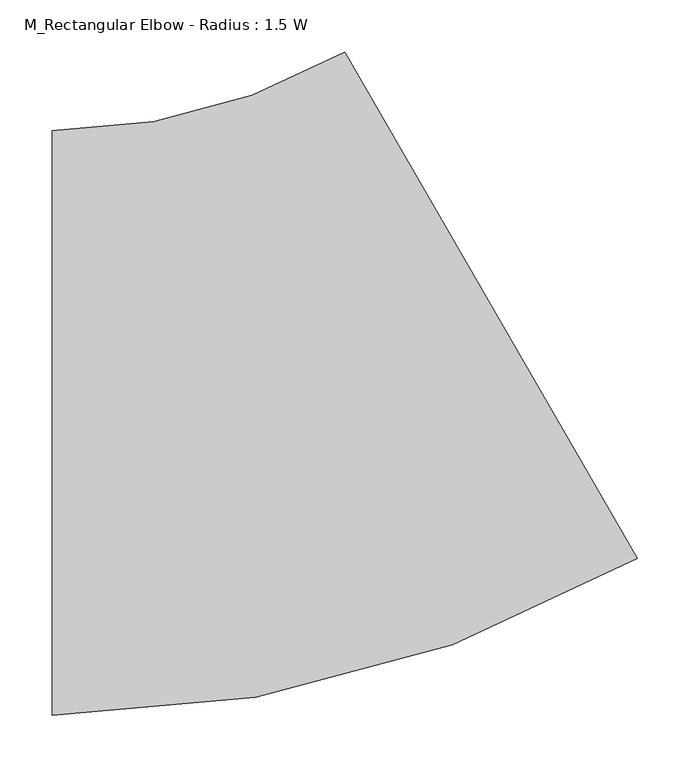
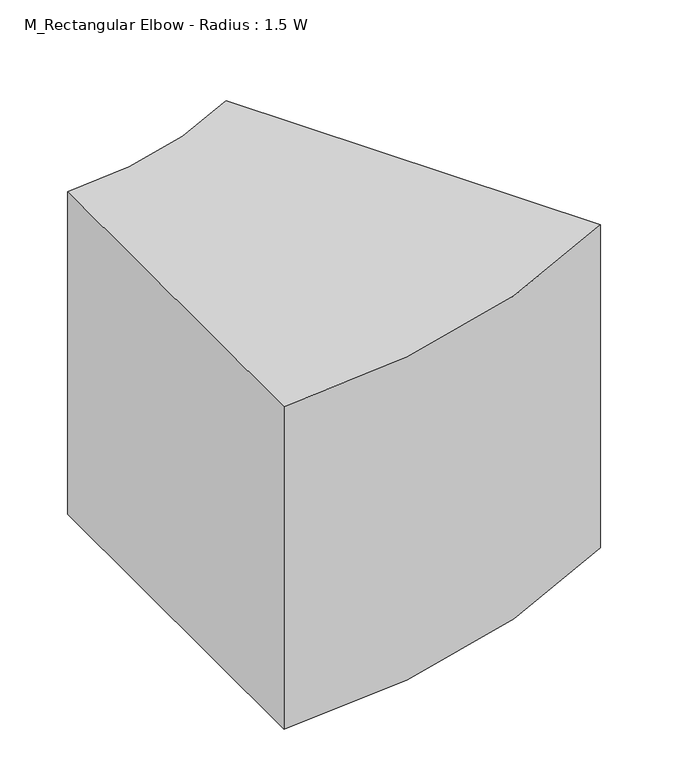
"""IFC4 building model written with IfcOpenShell, lengths in millimetres: duct fitting geometry, M_Rectangular Elbow - Radius : 1.5 W."""

from ifc_helpers import new_model, si_unit, point, frame, frame_2d, origin, place, context, project, spatial, polyline, circle_curve, trimmed, segment, composite_curve, outline, extrude, source, transform, mapped, element, save


def m_rectangular_elbow_radius_1_5_w_a988e95c(model_context):
    return source(origin(), model_context, "Body", "SweptSolid", [
        extrude(outline(composite_curve([segment(trimmed(circle_curve(frame_2d((-225.0774105, 840.0)), 1120.0), [point((334.9227809, -129.9483417))], [point((-225.0774105, -280.0))], False, "CARTESIAN"), True, "CONTINUOUS"), segment(polyline([(-225.0774105, -280.0), (-225.0774105, 280.0)]), True, "CONTINUOUS"), segment(trimmed(circle_curve(frame_2d((-225.0774105, 840.0)), 560.0), [point((-225.0774105, 280.0))], [point((54.9226852, 355.0258291))], True, "CARTESIAN"), True, "CONTINUOUS"), segment(polyline([(54.9226852, 355.0258291), (334.9227809, -129.9483417)]), True, "CONTINUOUS")], self_intersect=False)), frame((0.0, 0.0, -255.0), z_axis=(0.0, 0.0, 1.0), x_axis=(1.0, 0.0, 0.0)), (0.0, 0.0, 1.0), 510.0),
    ])


if __name__ == "__main__":
    model = new_model("IFC4")
    model_context = context("Model", 3, world=origin())
    ifc_project = project(units=[si_unit("LENGTHUNIT", "METRE", prefix="MILLI")], contexts=[model_context])
    site = spatial("IfcSite", under=ifc_project)
    building = spatial("IfcBuilding", under=site)
    placement = place(None, origin())
    m_rectangular_elbow_radius_1_5_w_shape = m_rectangular_elbow_radius_1_5_w_a988e95c(model_context)
    element("IfcDuctFitting", 1, ObjectType="M_Rectangular Elbow - Radius : 1.5 W", at=placement, inside=building, context=model_context, shape_type="MappedRepresentation", body=[
        mapped(m_rectangular_elbow_radius_1_5_w_shape, transform((0.0, 0.0, 0.0), x_axis=(1.0, 0.0, 0.0), y_axis=(0.0, 1.0, 0.0), z_axis=(0.0, 0.0, 1.0))),
    ])
    save(model, "model.ifc")
